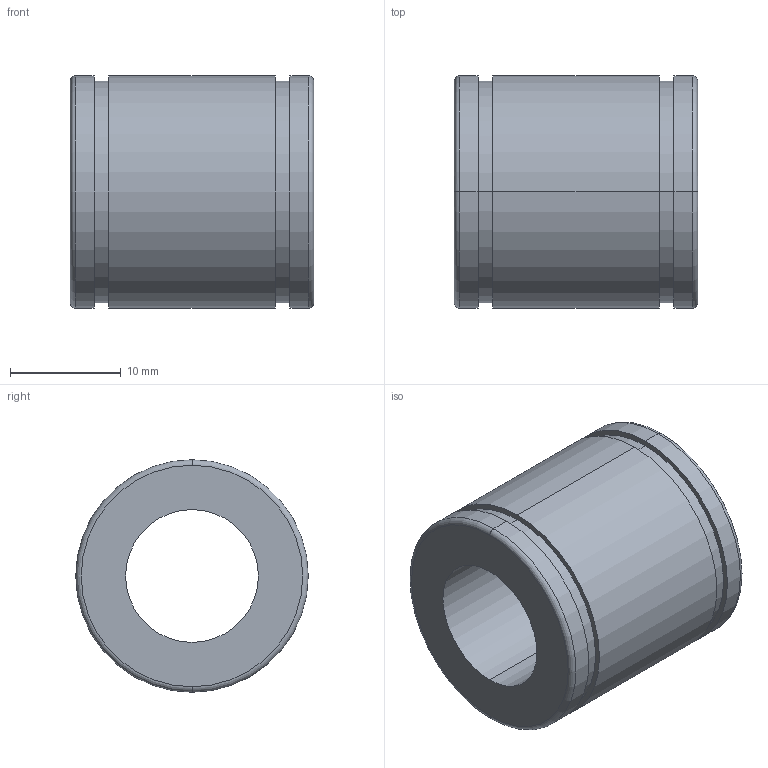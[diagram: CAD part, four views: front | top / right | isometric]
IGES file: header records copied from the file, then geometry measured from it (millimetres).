
Start section: 3D InterOp IGES (Version 21 0 1), Spatial Corp. Copyright (c) 1999-2007.
Global section: file name: N-12VS.igs; native system: Spatial Corp.; preprocessor: 3D InterOp GENERIC/IGES 3.0; author: Noname; organization: Noname; date: 20220311.154228; units: millimetre
Bounding box: 22 x 21 x 21 mm (x, y, z)
Surface area: 2839.1 mm2 (no closed solid volume)
Topology: 0 solids, 0 shells, 22 faces, 88 edges, 88 vertices
Faces by surface type: revolution 16, extrusion 6
